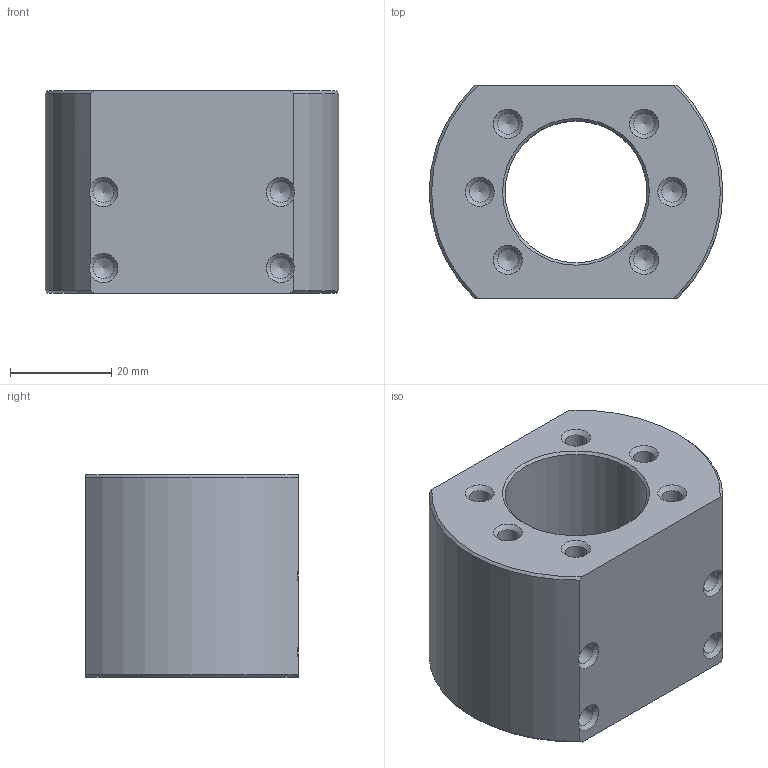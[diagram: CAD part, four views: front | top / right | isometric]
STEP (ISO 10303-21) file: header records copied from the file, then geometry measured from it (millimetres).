
FILE_DESCRIPTION(('STEP AP203'), '1');
FILE_NAME('沓劌錪 HSFU-1605', '', ('UNSPECIFIED'), ('UNSPECIFIED'), 'ASCON STEP Converter 1.6', 'ASCON Math Kernel', '');
FILE_SCHEMA(('CONFIG_CONTROL_DESIGN'));
Length unit declared in the file: millimetre
Bounding box: 58 x 42 x 40 mm (x, y, z)
Volume: 61183.4 mm3; surface area: 15562 mm2
Topology: 1 solids, 1 shells, 43 faces, 113 edges, 68 vertices
Faces by surface type: cone 26, cylinder 13, plane 4
Full cylindrical faces by diameter (mm): 4.134 x10, 28 x1
Entity records: 1631 total; most frequent: CARTESIAN_POINT 383, DIRECTION 188, ORIENTED_EDGE 140, AXIS2_PLACEMENT_3D 88, EDGE_LOOP 74, EDGE_CURVE 70, VERTEX_POINT 58, FACE_OUTER_BOUND 52
